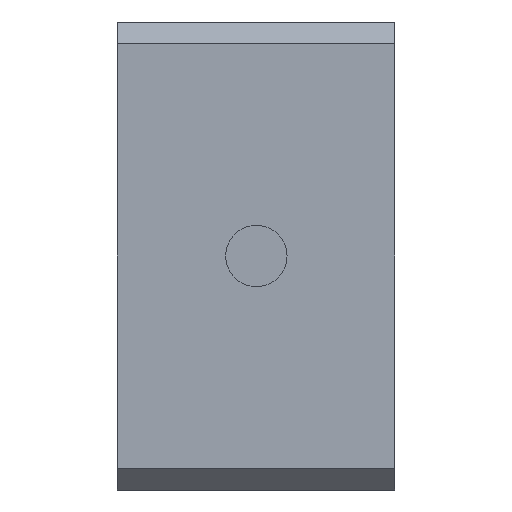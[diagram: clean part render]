
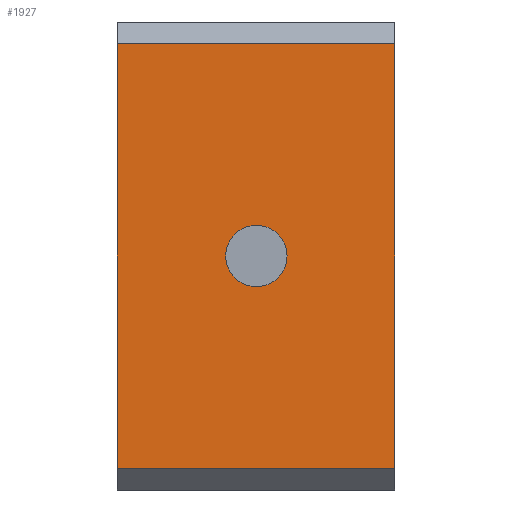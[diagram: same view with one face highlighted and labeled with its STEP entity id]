
A CAD part, left-side view. The second image highlights one B-rep face of the part: STEP entity #1927.
In plain terms, the highlighted planar face has unit normal (-1, 0, 0).
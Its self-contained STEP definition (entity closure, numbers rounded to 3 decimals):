
#177 = DIRECTION ( 'NONE',  ( 0., 1., 0. ) ) ;
#189 = CARTESIAN_POINT ( 'NONE',  ( -11., 9.881, 16. ) ) ;
#243 = EDGE_CURVE ( 'NONE', #1679, #2484, #1529, .T. ) ;
#323 = LINE ( 'NONE', #2705, #1925 ) ;
#358 = DIRECTION ( 'NONE',  ( 0., 0., -1. ) ) ;
#383 = CIRCLE ( 'NONE', #812, 2.1 ) ;
#425 = LINE ( 'NONE', #1413, #2904 ) ;
#493 = DIRECTION ( 'NONE',  ( 0., 1., 0. ) ) ;
#501 = EDGE_CURVE ( 'NONE', #2534, #758, #425, .T. ) ;
#503 = ORIENTED_EDGE ( 'NONE', *, *, #243, .T. ) ;
#531 = CARTESIAN_POINT ( 'NONE',  ( -11., 0.356, 0. ) ) ;
#551 = DIRECTION ( 'NONE',  ( 1., 0., 0. ) ) ;
#678 = CARTESIAN_POINT ( 'NONE',  ( -11., 9.881, 14.5 ) ) ;
#704 = EDGE_CURVE ( 'NONE', #1098, #1467, #383, .T. ) ;
#732 = VECTOR ( 'NONE', #493, 1000. ) ;
#734 = CARTESIAN_POINT ( 'NONE',  ( -11., 0.356, 2.1 ) ) ;
#758 = VERTEX_POINT ( 'NONE', #2497 ) ;
#766 = EDGE_CURVE ( 'NONE', #2484, #2534, #3028, .T. ) ;
#768 = CARTESIAN_POINT ( 'NONE',  ( -11., 0.356, 0. ) ) ;
#769 = ORIENTED_EDGE ( 'NONE', *, *, #501, .T. ) ;
#812 = AXIS2_PLACEMENT_3D ( 'NONE', #531, #551, #1011 ) ;
#876 = VECTOR ( 'NONE', #358, 1000. ) ;
#916 = CARTESIAN_POINT ( 'NONE',  ( -11., 0.356, -2.1 ) ) ;
#1011 = DIRECTION ( 'NONE',  ( 0., 0., -1. ) ) ;
#1074 = DIRECTION ( 'NONE',  ( 0., 0., -1. ) ) ;
#1098 = VERTEX_POINT ( 'NONE', #734 ) ;
#1328 = CARTESIAN_POINT ( 'NONE',  ( -11., 9.881, 16. ) ) ;
#1386 = EDGE_LOOP ( 'NONE', ( #2819, #2841 ) ) ;
#1413 = CARTESIAN_POINT ( 'NONE',  ( -11., 9.881, -14.5 ) ) ;
#1431 = FACE_OUTER_BOUND ( 'NONE', #2573, .T. ) ;
#1467 = VERTEX_POINT ( 'NONE', #916 ) ;
#1470 = AXIS2_PLACEMENT_3D ( 'NONE', #189, #2829, #177 ) ;
#1473 = DIRECTION ( 'NONE',  ( 1., 0., 0. ) ) ;
#1518 = ORIENTED_EDGE ( 'NONE', *, *, #766, .T. ) ;
#1529 = LINE ( 'NONE', #1678, #732 ) ;
#1653 = DIRECTION ( 'NONE',  ( 0., -1., 0. ) ) ;
#1678 = CARTESIAN_POINT ( 'NONE',  ( -11., 9.881, 14.5 ) ) ;
#1679 = VERTEX_POINT ( 'NONE', #2889 ) ;
#1873 = CARTESIAN_POINT ( 'NONE',  ( -11., 9.881, -14.5 ) ) ;
#1898 = FACE_BOUND ( 'NONE', #1386, .T. ) ;
#1925 = VECTOR ( 'NONE', #1074, 1000. ) ;
#1927 = ADVANCED_FACE ( 'NONE', ( #1898, #1431 ), #2842, .F. ) ;
#2135 = CIRCLE ( 'NONE', #3027, 2.1 ) ;
#2458 = DIRECTION ( 'NONE',  ( 0., 0., -1. ) ) ;
#2484 = VERTEX_POINT ( 'NONE', #678 ) ;
#2497 = CARTESIAN_POINT ( 'NONE',  ( -11., -9.119, -14.5 ) ) ;
#2534 = VERTEX_POINT ( 'NONE', #1873 ) ;
#2573 = EDGE_LOOP ( 'NONE', ( #1518, #769, #2895, #503 ) ) ;
#2705 = CARTESIAN_POINT ( 'NONE',  ( -11., -9.119, 16. ) ) ;
#2787 = EDGE_CURVE ( 'NONE', #1467, #1098, #2135, .T. ) ;
#2819 = ORIENTED_EDGE ( 'NONE', *, *, #2787, .T. ) ;
#2829 = DIRECTION ( 'NONE',  ( 1., 0., 0. ) ) ;
#2841 = ORIENTED_EDGE ( 'NONE', *, *, #704, .T. ) ;
#2842 = PLANE ( 'NONE',  #1470 ) ;
#2889 = CARTESIAN_POINT ( 'NONE',  ( -11., -9.119, 14.5 ) ) ;
#2895 = ORIENTED_EDGE ( 'NONE', *, *, #3034, .F. ) ;
#2904 = VECTOR ( 'NONE', #1653, 1000. ) ;
#3027 = AXIS2_PLACEMENT_3D ( 'NONE', #768, #1473, #2458 ) ;
#3028 = LINE ( 'NONE', #1328, #876 ) ;
#3034 = EDGE_CURVE ( 'NONE', #1679, #758, #323, .T. ) ;
